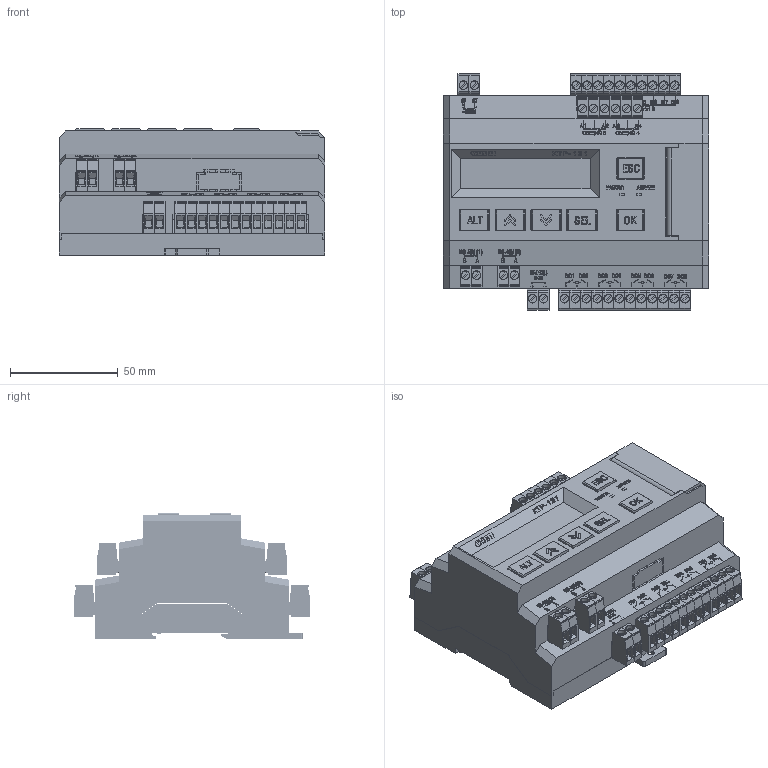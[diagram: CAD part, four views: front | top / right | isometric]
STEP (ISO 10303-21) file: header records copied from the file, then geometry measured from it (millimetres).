
FILE_DESCRIPTION (( 'STEP AP214' ), '1' );
FILE_NAME ('3D Ìîäåëü ÊÒÐ-121.220.STEP', '2021-07-12T14:10:40', ( '' ), ( '' ), 'SwSTEP 2.0', 'SolidWorks 2015', '' );
FILE_SCHEMA (( 'AUTOMOTIVE_DESIGN' ));
Length unit declared in the file: millimetre
Products named in the file (11): Ðàçúåì øòåêåðíûé 2-5.08; miniUSB; Ðàçúåì øòåêåðíûé íà ïëàòó 5.08; Êðûøêà; 3D Ìîäåëü ÊÒÐ-121.220; 抔樦憵 2-5,08; Êîðïóñ ÊÒÐ_îñí; 扻豵鵨 弅胙瞂贂; 抔樦憵 2edgk-5,08-1p; 婰膲僗闉 晊芡; Êíîïêè ÊÒÐ
Assembly tree (47 placements, depth 3):
  3D Ìîäåëü ÊÒÐ-121.220
    扻豵鵨 弅胙瞂贂
    Êîðïóñ ÊÒÐ_îñí
    Êíîïêè ÊÒÐ
    miniUSB
    Êðûøêà
    婰膲僗闉 晊芡
    Ðàçúåì øòåêåðíûé 2-5.08  x18
      Ðàçúåì øòåêåðíûé íà ïëàòó 5.08
    抔樦憵 2-5,08  x17
      抔樦憵 2edgk-5,08-1p
    抔樦憵 2edgk-5,08-1p  x2
Bounding box: 123 x 109.7 x 58.5 mm (x, y, z)
Volume: 214703.4 mm3; surface area: 142547 mm2
Topology: 79 solids, 79 shells, 12538 faces, 34781 edges, 23028 vertices
Faces by surface type: plane 10210, bspline 1444, cylinder 848, cone 36
Entity records: 393479 total; most frequent: CARTESIAN_POINT 72456, ORIENTED_EDGE 52202, DIRECTION 38926, EDGE_CURVE 26101, VECTOR 22692, LINE 22692, VERTEX_POINT 17393, EDGE_LOOP 9446
